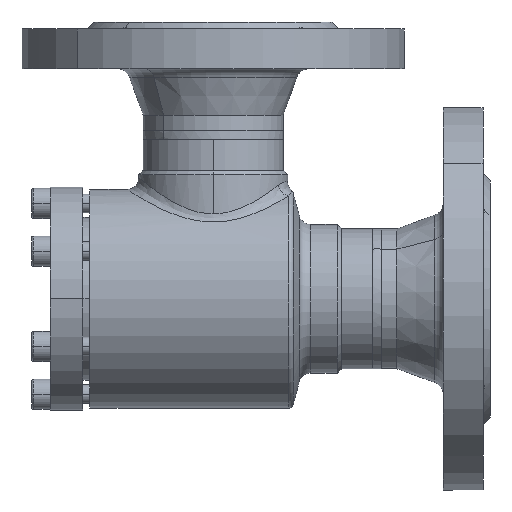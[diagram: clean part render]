
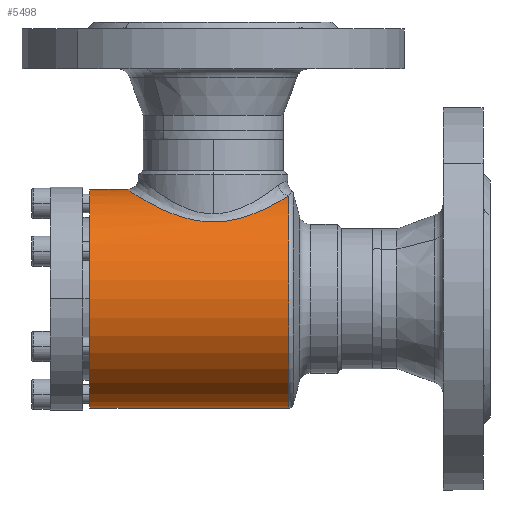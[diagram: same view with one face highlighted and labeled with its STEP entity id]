
A CAD part, left-side view. The second image highlights one B-rep face of the part: STEP entity #5498.
In plain terms, the highlighted cylindrical face has radius 47 mm (diameter 94 mm), a partial arc.
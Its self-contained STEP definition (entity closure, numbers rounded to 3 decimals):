
#2251 = ORIENTED_EDGE ( 'NONE', *, *, #2734, .T. ) ;
#2531 = VERTEX_POINT ( 'NONE', #9639 ) ;
#2734 = EDGE_CURVE ( 'NONE', #2531, #3577, #9875, .T. ) ;
#2735 = EDGE_CURVE ( 'NONE', #3731, #2531, #9881, .T. ) ;
#3085 = ORIENTED_EDGE ( 'NONE', *, *, #2735, .T. ) ;
#3577 = VERTEX_POINT ( 'NONE', #10945 ) ;
#3731 = VERTEX_POINT ( 'NONE', #11130 ) ;
#3940 = EDGE_CURVE ( 'NONE', #8864, #3731, #11445, .T. ) ;
#4289 = ORIENTED_EDGE ( 'NONE', *, *, #3940, .T. ) ;
#4620 = VERTEX_POINT ( 'NONE', #12069 ) ;
#4773 = ORIENTED_EDGE ( 'NONE', *, *, #4827, .F. ) ;
#4827 = EDGE_CURVE ( 'NONE', #8864, #4620, #12319, .T. ) ;
#5271 = EDGE_LOOP ( 'NONE', ( #4773, #4289, #3085, #2251, #15450 ) ) ;
#5498 = ADVANCED_FACE ( 'NONE', ( #15826 ), #15827, .T. ) ;
#8864 = VERTEX_POINT ( 'NONE', #12016 ) ;
#9639 = CARTESIAN_POINT ( 'NONE',  ( 0., -16., 47. ) ) ;
#9875 = LINE ( 'NONE', #9878, #9879 ) ;
#9878 = CARTESIAN_POINT ( 'NONE',  ( 0., -91., 47. ) ) ;
#9879 = VECTOR ( 'NONE', #9880, 1000. ) ;
#9880 = DIRECTION ( 'NONE',  ( 0., 1., 0. ) ) ;
#9881 = B_SPLINE_CURVE_WITH_KNOTS ( 'NONE', 3,
 ( #9882, #9883, #9884, #9885, #9886, #9887, #9888, #9889, #9890, #9891, #9892, #9893, #9895, #9896, #9897, #9898, #9899, #9900, #9901, #9902, #9903, #9904, #9905, #9906, #9907, #9908, #9909, #9910, #9914, #9915, #9916, #9917, #9918, #9919, #9920, #9921, #9922, #9923, #9924, #9925, #9926, #9927, #9928, #9929, #9932, #9933, #9934, #9935, #9936, #9937, #9938, #9939, #9940, #9941, #9942, #9943, #9944, #9945, #9946, #9947, #9948, #9949 ),
 .UNSPECIFIED., .F., .F.,
 ( 4, 2, 2, 2, 2, 2, 2, 2, 2, 2, 2, 2, 2, 2, 2, 2, 2, 2, 2, 2, 2, 2, 2, 2, 2, 2, 2, 2, 2, 2, 4 ),
 ( 0.017, 0.023, 0.026, 0.029, 0.035, 0.039, 0.04, 0.042, 0.048, 0.051, 0.052, 0.054, 0.06, 0.063, 0.066, 0.069, 0.072, 0.078, 0.081, 0.083, 0.084, 0.09, 0.093, 0.095, 0.096, 0.103, 0.106, 0.107, 0.109, 0.112, 0.115 ),
 .UNSPECIFIED. ) ;
#9882 = CARTESIAN_POINT ( 'NONE',  ( -16.073, -85.446, 44.166 ) ) ;
#9883 = CARTESIAN_POINT ( 'NONE',  ( -17.749, -84.43, 43.556 ) ) ;
#9884 = CARTESIAN_POINT ( 'NONE',  ( -19.293, -83.29, 42.887 ) ) ;
#9885 = CARTESIAN_POINT ( 'NONE',  ( -21.444, -81.41, 41.831 ) ) ;
#9886 = CARTESIAN_POINT ( 'NONE',  ( -22.133, -80.755, 41.469 ) ) ;
#9887 = CARTESIAN_POINT ( 'NONE',  ( -23.459, -79.389, 40.734 ) ) ;
#9888 = CARTESIAN_POINT ( 'NONE',  ( -24.096, -78.676, 40.359 ) ) ;
#9889 = CARTESIAN_POINT ( 'NONE',  ( -25.907, -76.48, 39.24 ) ) ;
#9890 = CARTESIAN_POINT ( 'NONE',  ( -26.989, -74.936, 38.497 ) ) ;
#9891 = CARTESIAN_POINT ( 'NONE',  ( -28.44, -72.491, 37.424 ) ) ;
#9892 = CARTESIAN_POINT ( 'NONE',  ( -28.894, -71.655, 37.073 ) ) ;
#9893 = CARTESIAN_POINT ( 'NONE',  ( -29.533, -70.366, 36.563 ) ) ;
#9895 = CARTESIAN_POINT ( 'NONE',  ( -29.739, -69.93, 36.396 ) ) ;
#9896 = CARTESIAN_POINT ( 'NONE',  ( -30.137, -69.047, 36.067 ) ) ;
#9897 = CARTESIAN_POINT ( 'NONE',  ( -30.328, -68.599, 35.906 ) ) ;
#9898 = CARTESIAN_POINT ( 'NONE',  ( -31.243, -66.344, 35.126 ) ) ;
#9899 = CARTESIAN_POINT ( 'NONE',  ( -31.842, -64.482, 34.576 ) ) ;
#9900 = CARTESIAN_POINT ( 'NONE',  ( -32.541, -61.591, 33.914 ) ) ;
#9901 = CARTESIAN_POINT ( 'NONE',  ( -32.74, -60.61, 33.721 ) ) ;
#9902 = CARTESIAN_POINT ( 'NONE',  ( -32.986, -59.111, 33.48 ) ) ;
#9903 = CARTESIAN_POINT ( 'NONE',  ( -33.059, -58.608, 33.408 ) ) ;
#9904 = CARTESIAN_POINT ( 'NONE',  ( -33.186, -57.603, 33.282 ) ) ;
#9905 = CARTESIAN_POINT ( 'NONE',  ( -33.239, -57.1, 33.229 ) ) ;
#9906 = CARTESIAN_POINT ( 'NONE',  ( -33.462, -54.583, 33.006 ) ) ;
#9907 = CARTESIAN_POINT ( 'NONE',  ( -33.49, -52.562, 32.976 ) ) ;
#9908 = CARTESIAN_POINT ( 'NONE',  ( -33.307, -49.52, 33.161 ) ) ;
#9909 = CARTESIAN_POINT ( 'NONE',  ( -33.207, -48.498, 33.262 ) ) ;
#9910 = CARTESIAN_POINT ( 'NONE',  ( -32.933, -46.49, 33.532 ) ) ;
#9914 = CARTESIAN_POINT ( 'NONE',  ( -32.761, -45.501, 33.702 ) ) ;
#9915 = CARTESIAN_POINT ( 'NONE',  ( -32.346, -43.55, 34.1 ) ) ;
#9916 = CARTESIAN_POINT ( 'NONE',  ( -32.103, -42.587, 34.33 ) ) ;
#9917 = CARTESIAN_POINT ( 'NONE',  ( -31.549, -40.688, 34.839 ) ) ;
#9918 = CARTESIAN_POINT ( 'NONE',  ( -31.237, -39.749, 35.121 ) ) ;
#9919 = CARTESIAN_POINT ( 'NONE',  ( -30.211, -37.009, 36.016 ) ) ;
#9920 = CARTESIAN_POINT ( 'NONE',  ( -29.406, -35.272, 36.683 ) ) ;
#9921 = CARTESIAN_POINT ( 'NONE',  ( -28.021, -32.781, 37.738 ) ) ;
#9922 = CARTESIAN_POINT ( 'NONE',  ( -27.529, -31.97, 38.099 ) ) ;
#9923 = CARTESIAN_POINT ( 'NONE',  ( -26.744, -30.781, 38.65 ) ) ;
#9924 = CARTESIAN_POINT ( 'NONE',  ( -26.475, -30.389, 38.835 ) ) ;
#9925 = CARTESIAN_POINT ( 'NONE',  ( -25.92, -29.615, 39.208 ) ) ;
#9926 = CARTESIAN_POINT ( 'NONE',  ( -25.634, -29.233, 39.396 ) ) ;
#9927 = CARTESIAN_POINT ( 'NONE',  ( -24.175, -27.357, 40.33 ) ) ;
#9928 = CARTESIAN_POINT ( 'NONE',  ( -22.902, -25.964, 41.072 ) ) ;
#9929 = CARTESIAN_POINT ( 'NONE',  ( -20.822, -24.029, 42.143 ) ) ;
#9932 = CARTESIAN_POINT ( 'NONE',  ( -20.099, -23.411, 42.494 ) ) ;
#9933 = CARTESIAN_POINT ( 'NONE',  ( -18.969, -22.523, 43.004 ) ) ;
#9934 = CARTESIAN_POINT ( 'NONE',  ( -18.584, -22.235, 43.172 ) ) ;
#9935 = CARTESIAN_POINT ( 'NONE',  ( -17.798, -21.671, 43.502 ) ) ;
#9936 = CARTESIAN_POINT ( 'NONE',  ( -17.396, -21.396, 43.664 ) ) ;
#9937 = CARTESIAN_POINT ( 'NONE',  ( -15.356, -20.064, 44.455 ) ) ;
#9938 = CARTESIAN_POINT ( 'NONE',  ( -13.635, -19.147, 45.018 ) ) ;
#9939 = CARTESIAN_POINT ( 'NONE',  ( -10.906, -18.006, 45.727 ) ) ;
#9940 = CARTESIAN_POINT ( 'NONE',  ( -9.972, -17.666, 45.94 ) ) ;
#9941 = CARTESIAN_POINT ( 'NONE',  ( -8.53, -17.219, 46.222 ) ) ;
#9942 = CARTESIAN_POINT ( 'NONE',  ( -8.041, -17.081, 46.31 ) ) ;
#9943 = CARTESIAN_POINT ( 'NONE',  ( -7.058, -16.829, 46.47 ) ) ;
#9944 = CARTESIAN_POINT ( 'NONE',  ( -6.563, -16.715, 46.542 ) ) ;
#9945 = CARTESIAN_POINT ( 'NONE',  ( -5.066, -16.41, 46.737 ) ) ;
#9946 = CARTESIAN_POINT ( 'NONE',  ( -4.049, -16.255, 46.836 ) ) ;
#9947 = CARTESIAN_POINT ( 'NONE',  ( -2.024, -16.051, 46.967 ) ) ;
#9948 = CARTESIAN_POINT ( 'NONE',  ( -1.011, -16., 47. ) ) ;
#9949 = CARTESIAN_POINT ( 'NONE',  ( 0., -16., 47. ) ) ;
#10603 = CIRCLE ( 'NONE', #10604, 47. ) ;
#10604 = AXIS2_PLACEMENT_3D ( 'NONE', #10605, #10606, #10607 ) ;
#10605 = CARTESIAN_POINT ( 'NONE',  ( 0., 0., 0. ) ) ;
#10606 = DIRECTION ( 'NONE',  ( 0., 1., 0. ) ) ;
#10607 = DIRECTION ( 'NONE',  ( 0., 0., 1. ) ) ;
#10945 = CARTESIAN_POINT ( 'NONE',  ( 0., 0., 47. ) ) ;
#11130 = CARTESIAN_POINT ( 'NONE',  ( -16.073, -85.446, 44.166 ) ) ;
#11445 = CIRCLE ( 'NONE', #11446, 47. ) ;
#11446 = AXIS2_PLACEMENT_3D ( 'NONE', #11447, #11448, #11449 ) ;
#11447 = CARTESIAN_POINT ( 'NONE',  ( 0., -85.446, 0. ) ) ;
#11448 = DIRECTION ( 'NONE',  ( 0., 1., 0. ) ) ;
#11449 = DIRECTION ( 'NONE',  ( 0., 0., -1. ) ) ;
#12016 = CARTESIAN_POINT ( 'NONE',  ( 0., -85.446, -47. ) ) ;
#12069 = CARTESIAN_POINT ( 'NONE',  ( 0., 0., -47. ) ) ;
#12319 = LINE ( 'NONE', #12320, #12321 ) ;
#12320 = CARTESIAN_POINT ( 'NONE',  ( 0., -91., -47. ) ) ;
#12321 = VECTOR ( 'NONE', #12322, 1000. ) ;
#12322 = DIRECTION ( 'NONE',  ( 0., 1., 0. ) ) ;
#15108 = EDGE_CURVE ( 'NONE', #4620, #3577, #10603, .T. ) ;
#15450 = ORIENTED_EDGE ( 'NONE', *, *, #15108, .F. ) ;
#15826 = FACE_OUTER_BOUND ( 'NONE', #5271, .T. ) ;
#15827 = CYLINDRICAL_SURFACE ( 'NONE', #15828, 47. ) ;
#15828 = AXIS2_PLACEMENT_3D ( 'NONE', #15829, #15830, #15831 ) ;
#15829 = CARTESIAN_POINT ( 'NONE',  ( 0., -91., 0. ) ) ;
#15830 = DIRECTION ( 'NONE',  ( 0., 1., 0. ) ) ;
#15831 = DIRECTION ( 'NONE',  ( 0., 0., 1. ) ) ;
